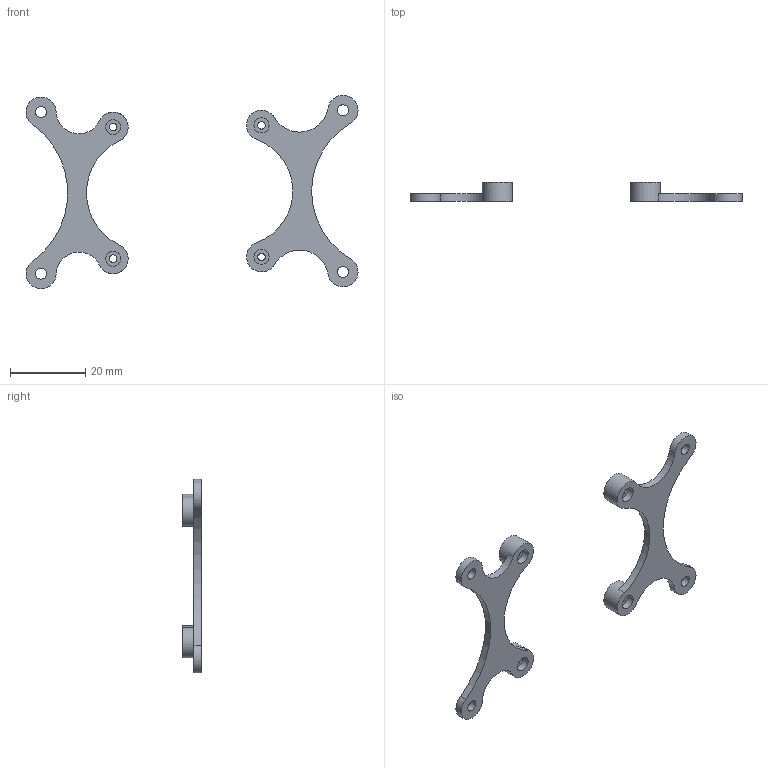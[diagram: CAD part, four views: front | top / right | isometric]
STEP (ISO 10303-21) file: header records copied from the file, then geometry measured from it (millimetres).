
FILE_DESCRIPTION(/* description */ ('STEP AP242','CAx-IF Rec.Pracs.---Representation and Presentation of Product Manufacturing Information (PMI)---4.0---2014-10-13','CAx-IF Rec.Pracs.---3D Tessellated Geometry---0.4---2014-09-14','2;1'),/* implementation_level */ '2;1');
FILE_NAME(/* name */ '67b613d8c5fed027b9f91b00',/* time_stamp */ '2025-02-19T17:24:41Z',/* author */ (''),/* organization */ (''),/* preprocessor_version */ 'ST-DEVELOPER v20',/* originating_system */ 'ONSHAPE BY PTC INC, 1.193',/* authorisation */ ' ');
FILE_SCHEMA (('AP242_MANAGED_MODEL_BASED_3D_ENGINEERING_MIM_LF { 1 0 10303 442 1 1 4 }'));
Length unit declared in the file: metre
Products named in the file (2): Part 1; Part 2
Bounding box: 88.33 x 5 x 51.47 mm (x, y, z)
Volume: 2665.2 mm3; surface area: 3434 mm2
Topology: 2 solids, 2 shells, 40 faces, 98 edges, 66 vertices
Faces by surface type: cylinder 28, plane 12
Full cylindrical faces by diameter (mm): 2 x4, 3 x4, 4 x4, 8 x4
Entity records: 1164 total; most frequent: DIRECTION 220, CARTESIAN_POINT 178, ORIENTED_EDGE 152, AXIS2_PLACEMENT_3D 102, EDGE_CURVE 76, EDGE_LOOP 76, FACE_BOUND 76, VERTEX_POINT 60
